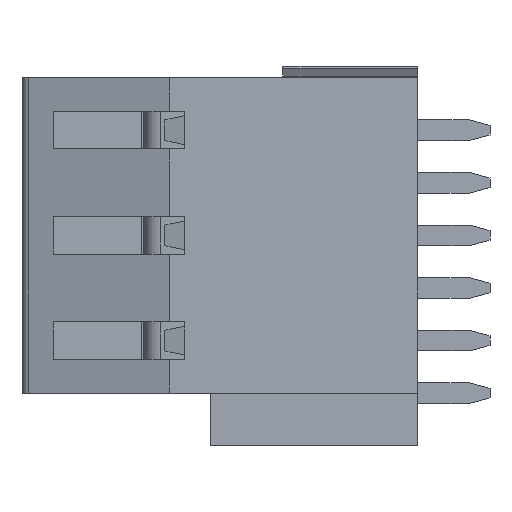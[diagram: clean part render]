
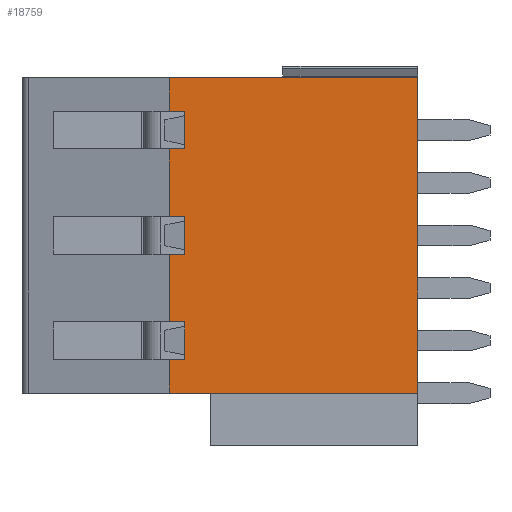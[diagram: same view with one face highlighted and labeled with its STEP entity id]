
A CAD part, left-side view. The second image highlights one B-rep face of the part: STEP entity #18759.
In plain terms, the highlighted planar face has unit normal (-1, 0, 0).
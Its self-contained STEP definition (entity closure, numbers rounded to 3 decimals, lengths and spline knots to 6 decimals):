
#5126=DIRECTION('',(0.,1.,0.));
#5127=VECTOR('',#5126,0.012);
#5128=CARTESIAN_POINT('',(0.,0.,-0.01579));
#5129=LINE('',#5128,#5127);
#8020=DIRECTION('',(0.,-1.,0.));
#8021=VECTOR('',#8020,0.00075);
#8022=CARTESIAN_POINT('',(0.,0.012,-0.00399));
#8023=LINE('',#8022,#8021);
#8028=DIRECTION('',(0.,1.,0.));
#8029=VECTOR('',#8028,0.012);
#8030=CARTESIAN_POINT('',(0.,0.,-0.00055));
#8031=LINE('',#8030,#8029);
#8032=DIRECTION('',(0.,0.,1.));
#8033=VECTOR('',#8032,0.01524);
#8034=CARTESIAN_POINT('',(0.,0.,-0.01579));
#8035=LINE('',#8034,#8033);
#8036=DIRECTION('',(0.,0.,-1.));
#8037=VECTOR('',#8036,0.00164);
#8038=CARTESIAN_POINT('',(0.,0.012,-0.01415));
#8039=LINE('',#8038,#8037);
#8040=DIRECTION('',(0.,0.,-1.));
#8041=VECTOR('',#8040,0.00328);
#8042=CARTESIAN_POINT('',(0.,0.012,-0.00907));
#8043=LINE('',#8042,#8041);
#8044=DIRECTION('',(0.,0.,-1.));
#8045=VECTOR('',#8044,0.00328);
#8046=CARTESIAN_POINT('',(0.,0.012,-0.00399));
#8047=LINE('',#8046,#8045);
#8048=DIRECTION('',(0.,0.,-1.));
#8049=VECTOR('',#8048,0.00164);
#8050=CARTESIAN_POINT('',(0.,0.012,-0.00055));
#8051=LINE('',#8050,#8049);
#8052=DIRECTION('',(0.,-1.,0.));
#8053=VECTOR('',#8052,0.00075);
#8054=CARTESIAN_POINT('',(0.,0.012,-0.00907));
#8055=LINE('',#8054,#8053);
#8076=DIRECTION('',(0.,1.,0.));
#8077=VECTOR('',#8076,0.00075);
#8078=CARTESIAN_POINT('',(0.,0.01125,-0.00727));
#8079=LINE('',#8078,#8077);
#8092=DIRECTION('',(0.,0.,1.));
#8093=VECTOR('',#8092,0.0018);
#8094=CARTESIAN_POINT('',(0.,0.01125,-0.00907));
#8095=LINE('',#8094,#8093);
#9487=DIRECTION('',(0.,1.,0.));
#9488=VECTOR('',#9487,0.00075);
#9489=CARTESIAN_POINT('',(0.,0.01125,-0.01235));
#9490=LINE('',#9489,#9488);
#9869=DIRECTION('',(0.,0.,1.));
#9870=VECTOR('',#9869,0.0018);
#9871=CARTESIAN_POINT('',(0.,0.01125,-0.01415));
#9872=LINE('',#9871,#9870);
#9877=DIRECTION('',(0.,-1.,0.));
#9878=VECTOR('',#9877,0.00075);
#9879=CARTESIAN_POINT('',(0.,0.012,-0.01415));
#9880=LINE('',#9879,#9878);
#9921=DIRECTION('',(0.,1.,0.));
#9922=VECTOR('',#9921,0.00075);
#9923=CARTESIAN_POINT('',(0.,0.01125,-0.00219));
#9924=LINE('',#9923,#9922);
#9945=DIRECTION('',(0.,0.,1.));
#9946=VECTOR('',#9945,0.0018);
#9947=CARTESIAN_POINT('',(0.,0.01125,-0.00399));
#9948=LINE('',#9947,#9946);
#10212=CARTESIAN_POINT('',(0.,0.,-0.00055));
#10213=VERTEX_POINT('',#10212);
#10214=CARTESIAN_POINT('',(0.,0.012,-0.00055));
#10215=VERTEX_POINT('',#10214);
#10276=CARTESIAN_POINT('',(0.,0.,-0.01579));
#10277=VERTEX_POINT('',#10276);
#10955=CARTESIAN_POINT('',(0.,0.012,-0.00907));
#10956=CARTESIAN_POINT('',(0.,0.012,-0.01235));
#10957=VERTEX_POINT('',#10955);
#10958=VERTEX_POINT('',#10956);
#10963=CARTESIAN_POINT('',(0.,0.012,-0.01415));
#10964=VERTEX_POINT('',#10963);
#10965=CARTESIAN_POINT('',(0.,0.012,-0.01579));
#10966=VERTEX_POINT('',#10965);
#10967=CARTESIAN_POINT('',(0.,0.012,-0.00219));
#10968=VERTEX_POINT('',#10967);
#10973=CARTESIAN_POINT('',(0.,0.012,-0.00399));
#10974=VERTEX_POINT('',#10973);
#10975=CARTESIAN_POINT('',(0.,0.012,-0.00727));
#10976=VERTEX_POINT('',#10975);
#10981=CARTESIAN_POINT('',(0.,0.01125,-0.01415));
#10982=VERTEX_POINT('',#10981);
#10983=CARTESIAN_POINT('',(0.,0.01125,-0.01235));
#10984=VERTEX_POINT('',#10983);
#10985=CARTESIAN_POINT('',(0.,0.01125,-0.00907));
#10986=VERTEX_POINT('',#10985);
#10987=CARTESIAN_POINT('',(0.,0.01125,-0.00727));
#10988=VERTEX_POINT('',#10987);
#10989=CARTESIAN_POINT('',(0.,0.01125,-0.00399));
#10990=VERTEX_POINT('',#10989);
#10991=CARTESIAN_POINT('',(0.,0.01125,-0.00219));
#10992=VERTEX_POINT('',#10991);
#18724=CARTESIAN_POINT('',(0.,0.012,-0.00563));
#18725=DIRECTION('',(-1.,0.,0.));
#18726=DIRECTION('',(0.,-1.,0.));
#18727=AXIS2_PLACEMENT_3D('',#18724,#18725,#18726);
#18728=PLANE('',#18727);
#18729=ORIENTED_EDGE('',*,*,#12103,.F.);
#18730=ORIENTED_EDGE('',*,*,#12171,.F.);
#18731=ORIENTED_EDGE('',*,*,#16449,.T.);
#18733=ORIENTED_EDGE('',*,*,#18732,.F.);
#18735=ORIENTED_EDGE('',*,*,#18734,.T.);
#18737=ORIENTED_EDGE('',*,*,#18736,.T.);
#18739=ORIENTED_EDGE('',*,*,#18738,.T.);
#18741=ORIENTED_EDGE('',*,*,#18740,.F.);
#18743=ORIENTED_EDGE('',*,*,#18742,.T.);
#18745=ORIENTED_EDGE('',*,*,#18744,.T.);
#18747=ORIENTED_EDGE('',*,*,#18746,.T.);
#18749=ORIENTED_EDGE('',*,*,#18748,.F.);
#18750=ORIENTED_EDGE('',*,*,#18711,.T.);
#18752=ORIENTED_EDGE('',*,*,#18751,.T.);
#18754=ORIENTED_EDGE('',*,*,#18753,.T.);
#18756=ORIENTED_EDGE('',*,*,#18755,.F.);
#18757=EDGE_LOOP('',(#18729,#18730,#18731,#18733,#18735,#18737,#18739,#18741,
#18743,#18745,#18747,#18749,#18750,#18752,#18754,#18756));
#18758=FACE_OUTER_BOUND('',#18757,.F.);
#18759=ADVANCED_FACE('',(#18758),#18728,.T.);
#12103=EDGE_CURVE('',#10213,#10215,#8031,.T.);
#12171=EDGE_CURVE('',#10277,#10213,#8035,.T.);
#16449=EDGE_CURVE('',#10277,#10966,#5129,.T.);
#18711=EDGE_CURVE('',#10974,#10990,#8023,.T.);
#18732=EDGE_CURVE('',#10964,#10966,#8039,.T.);
#18734=EDGE_CURVE('',#10964,#10982,#9880,.T.);
#18736=EDGE_CURVE('',#10982,#10984,#9872,.T.);
#18738=EDGE_CURVE('',#10984,#10958,#9490,.T.);
#18740=EDGE_CURVE('',#10957,#10958,#8043,.T.);
#18742=EDGE_CURVE('',#10957,#10986,#8055,.T.);
#18744=EDGE_CURVE('',#10986,#10988,#8095,.T.);
#18746=EDGE_CURVE('',#10988,#10976,#8079,.T.);
#18748=EDGE_CURVE('',#10974,#10976,#8047,.T.);
#18751=EDGE_CURVE('',#10990,#10992,#9948,.T.);
#18753=EDGE_CURVE('',#10992,#10968,#9924,.T.);
#18755=EDGE_CURVE('',#10215,#10968,#8051,.T.);
